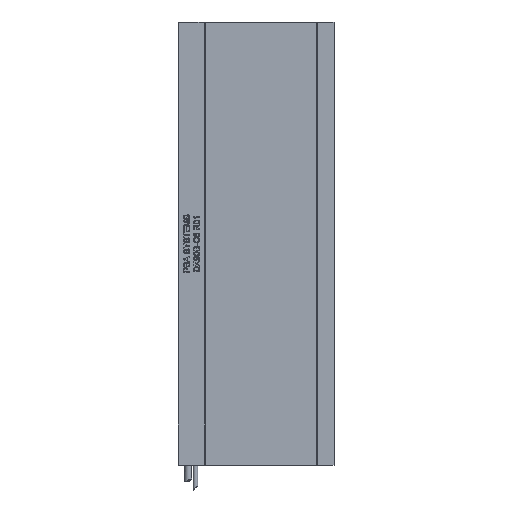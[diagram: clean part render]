
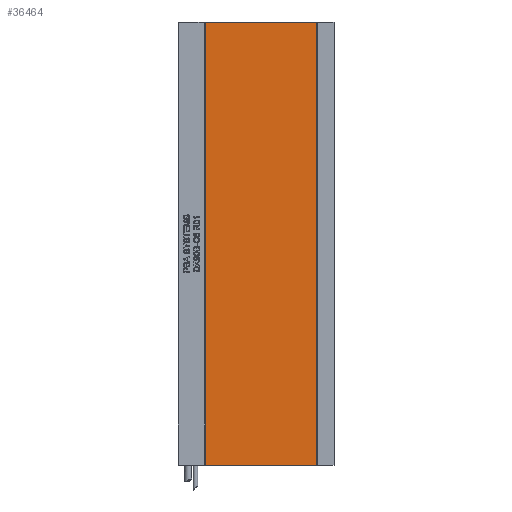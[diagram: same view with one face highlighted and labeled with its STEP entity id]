
A CAD part, left-side view. The second image highlights one B-rep face of the part: STEP entity #36464.
In plain terms, the highlighted planar face has unit normal (-1, 0, 0).
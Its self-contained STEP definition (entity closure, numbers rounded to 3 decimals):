
#519 = CARTESIAN_POINT ( 'NONE',  ( -5.8, 14.2, 361. ) ) ;
#1563 = DIRECTION ( 'NONE',  ( 0., 0., -1. ) ) ;
#1800 = EDGE_CURVE ( 'NONE', #7595, #19136, #22695, .T. ) ;
#2035 = CARTESIAN_POINT ( 'NONE',  ( -5.8, 14.2, 361. ) ) ;
#3715 = DIRECTION ( 'NONE',  ( 0., 1., 0. ) ) ;
#3834 = CARTESIAN_POINT ( 'NONE',  ( -5.8, 104.7, 361. ) ) ;
#7595 = VERTEX_POINT ( 'NONE', #17965 ) ;
#9646 = EDGE_CURVE ( 'NONE', #28498, #7595, #33741, .T. ) ;
#13682 = VECTOR ( 'NONE', #3715, 1000. ) ;
#14978 = CARTESIAN_POINT ( 'NONE',  ( -5.8, 14.2, 361. ) ) ;
#16167 = EDGE_LOOP ( 'NONE', ( #23551, #26780, #25883, #22126 ) ) ;
#16560 = EDGE_CURVE ( 'NONE', #29787, #19136, #32822, .T. ) ;
#17792 = CARTESIAN_POINT ( 'NONE',  ( -5.8, 104.7, 0. ) ) ;
#17965 = CARTESIAN_POINT ( 'NONE',  ( -5.8, 14.2, 0. ) ) ;
#18011 = DIRECTION ( 'NONE',  ( -1., 0., 0. ) ) ;
#18457 = FACE_OUTER_BOUND ( 'NONE', #16167, .T. ) ;
#19136 = VERTEX_POINT ( 'NONE', #17792 ) ;
#19572 = CARTESIAN_POINT ( 'NONE',  ( -5.8, 14.2, 0. ) ) ;
#19837 = DIRECTION ( 'NONE',  ( 0., 1., 0. ) ) ;
#22126 = ORIENTED_EDGE ( 'NONE', *, *, #16560, .T. ) ;
#22695 = LINE ( 'NONE', #19572, #30560 ) ;
#23551 = ORIENTED_EDGE ( 'NONE', *, *, #1800, .F. ) ;
#24894 = VECTOR ( 'NONE', #33963, 1000. ) ;
#24997 = CARTESIAN_POINT ( 'NONE',  ( -5.8, 14.2, 361. ) ) ;
#25185 = CARTESIAN_POINT ( 'NONE',  ( -5.8, 104.7, 361. ) ) ;
#25883 = ORIENTED_EDGE ( 'NONE', *, *, #37555, .T. ) ;
#25887 = VECTOR ( 'NONE', #1563, 1000. ) ;
#26780 = ORIENTED_EDGE ( 'NONE', *, *, #9646, .F. ) ;
#26799 = PLANE ( 'NONE',  #34680 ) ;
#28498 = VERTEX_POINT ( 'NONE', #24997 ) ;
#29787 = VERTEX_POINT ( 'NONE', #25185 ) ;
#30560 = VECTOR ( 'NONE', #19837, 1000. ) ;
#32822 = LINE ( 'NONE', #3834, #24894 ) ;
#33741 = LINE ( 'NONE', #2035, #25887 ) ;
#33963 = DIRECTION ( 'NONE',  ( 0., 0., -1. ) ) ;
#34680 = AXIS2_PLACEMENT_3D ( 'NONE', #14978, #18011, #38831 ) ;
#36464 = ADVANCED_FACE ( 'NONE', ( #18457 ), #26799, .T. ) ;
#37535 = LINE ( 'NONE', #519, #13682 ) ;
#37555 = EDGE_CURVE ( 'NONE', #28498, #29787, #37535, .T. ) ;
#38831 = DIRECTION ( 'NONE',  ( 0., 0., 1. ) ) ;
